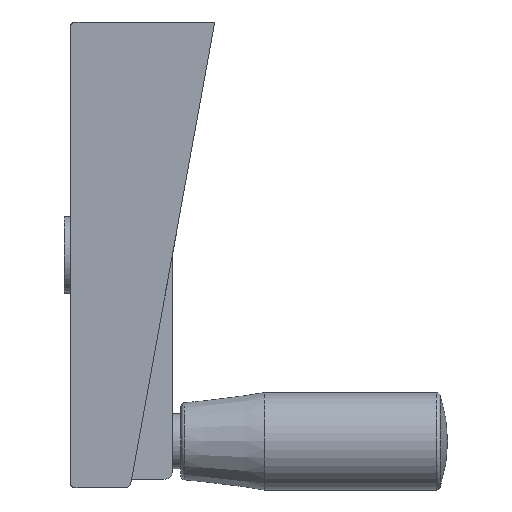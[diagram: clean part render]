
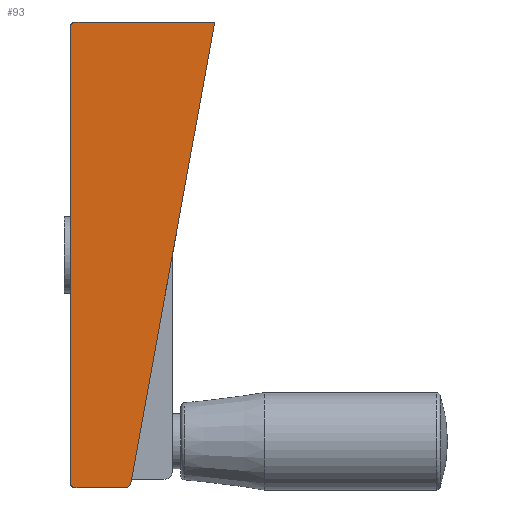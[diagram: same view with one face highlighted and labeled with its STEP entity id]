
A CAD part, top view. The second image highlights one B-rep face of the part: STEP entity #93.
In plain terms, the highlighted planar face has unit normal (0, -0.027, 1).
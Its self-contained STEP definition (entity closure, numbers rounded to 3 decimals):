
#93 = ADVANCED_FACE( '', ( #150 ), #151, .F. );
#150 = FACE_OUTER_BOUND( '', #218, .T. );
#151 = PLANE( '', #219 );
#218 = EDGE_LOOP( '', ( #357, #358, #359, #360, #361, #362, #363, #364, #365, #366, #367 ) );
#219 = AXIS2_PLACEMENT_3D( '', #368, #369, #370 );
#357 = ORIENTED_EDGE( '', *, *, #484, .F. );
#358 = ORIENTED_EDGE( '', *, *, #481, .F. );
#359 = ORIENTED_EDGE( '', *, *, #485, .F. );
#360 = ORIENTED_EDGE( '', *, *, #486, .F. );
#361 = ORIENTED_EDGE( '', *, *, #468, .F. );
#362 = ORIENTED_EDGE( '', *, *, #465, .F. );
#363 = ORIENTED_EDGE( '', *, *, #461, .F. );
#364 = ORIENTED_EDGE( '', *, *, #458, .F. );
#365 = ORIENTED_EDGE( '', *, *, #455, .F. );
#366 = ORIENTED_EDGE( '', *, *, #452, .F. );
#367 = ORIENTED_EDGE( '', *, *, #445, .F. );
#368 = CARTESIAN_POINT( '', ( 35., 0., 14. ) );
#369 = DIRECTION( '', ( 0., 0.027, -1. ) );
#370 = DIRECTION( '', ( 0., 1., 0.027 ) );
#445 = EDGE_CURVE( '', #509, #511, #512, .T. );
#452 = EDGE_CURVE( '', #511, #519, #523, .T. );
#455 = EDGE_CURVE( '', #519, #524, #528, .T. );
#458 = EDGE_CURVE( '', #524, #529, #533, .T. );
#461 = EDGE_CURVE( '', #529, #534, #538, .T. );
#465 = EDGE_CURVE( '', #534, #541, #545, .T. );
#468 = EDGE_CURVE( '', #541, #546, #550, .T. );
#481 = EDGE_CURVE( '', #571, #573, #574, .T. );
#484 = EDGE_CURVE( '', #573, #509, #578, .T. );
#485 = EDGE_CURVE( '', #579, #571, #580, .T. );
#486 = EDGE_CURVE( '', #546, #579, #581, .T. );
#509 = VERTEX_POINT( '', #611 );
#511 = VERTEX_POINT( '', #614 );
#512 = LINE( '', #615, #616 );
#519 = VERTEX_POINT( '', #625 );
#523 = LINE( '', #631, #632 );
#524 = VERTEX_POINT( '', #633 );
#528 = ELLIPSE( '', #638, 1.501, 1.5 );
#529 = VERTEX_POINT( '', #639 );
#533 = LINE( '', #645, #646 );
#534 = VERTEX_POINT( '', #647 );
#538 = ELLIPSE( '', #652, 1., 1. );
#541 = VERTEX_POINT( '', #655 );
#545 = LINE( '', #661, #662 );
#546 = VERTEX_POINT( '', #663 );
#550 = ELLIPSE( '', #668, 1., 1. );
#571 = VERTEX_POINT( '', #692 );
#573 = VERTEX_POINT( '', #695 );
#574 = LINE( '', #696, #697 );
#578 = LINE( '', #703, #704 );
#579 = VERTEX_POINT( '', #705 );
#580 = LINE( '', #706, #707 );
#581 = LINE( '', #708, #709 );
#611 = CARTESIAN_POINT( '', ( 14.366, -108., 11.055 ) );
#614 = CARTESIAN_POINT( '', ( 14.364, -108., 11.055 ) );
#615 = CARTESIAN_POINT( '', ( 14.364, -108., 11.055 ) );
#616 = VECTOR( '', #737, 1000. );
#625 = CARTESIAN_POINT( '', ( 14.224, -108.768, 11.034 ) );
#631 = CARTESIAN_POINT( '', ( 14.305, -108.321, 11.046 ) );
#632 = VECTOR( '', #748, 1000. );
#633 = CARTESIAN_POINT( '', ( 12.748, -110., 11. ) );
#638 = AXIS2_PLACEMENT_3D( '', #753, #754, #755 );
#639 = CARTESIAN_POINT( '', ( 1., -110., 11. ) );
#645 = CARTESIAN_POINT( '', ( 35., -110., 11. ) );
#646 = VECTOR( '', #758, 1000. );
#647 = CARTESIAN_POINT( '', ( 0., -109., 11.027 ) );
#652 = AXIS2_PLACEMENT_3D( '', #763, #764, #765 );
#655 = CARTESIAN_POINT( '', ( 0., -1., 13.973 ) );
#661 = CARTESIAN_POINT( '', ( 0., -0.618, 13.983 ) );
#662 = VECTOR( '', #771, 1000. );
#663 = CARTESIAN_POINT( '', ( 1., 0., 14. ) );
#668 = AXIS2_PLACEMENT_3D( '', #776, #777, #778 );
#692 = CARTESIAN_POINT( '', ( 24., -55., 12.5 ) );
#695 = CARTESIAN_POINT( '', ( 24., -55.006, 12.5 ) );
#696 = CARTESIAN_POINT( '', ( 24., -105.54, 11.122 ) );
#697 = VECTOR( '', #804, 1000. );
#703 = CARTESIAN_POINT( '', ( 34.032, 0.176, 14.005 ) );
#704 = VECTOR( '', #807, 1000. );
#705 = CARTESIAN_POINT( '', ( 34., 0., 14. ) );
#706 = CARTESIAN_POINT( '', ( 24.074, -54.591, 12.511 ) );
#707 = VECTOR( '', #808, 1000. );
#708 = CARTESIAN_POINT( '', ( 34., 0., 14. ) );
#709 = VECTOR( '', #809, 1000. );
#737 = DIRECTION( '', ( -1., 0., 0. ) );
#748 = DIRECTION( '', ( -0.179, -0.984, -0.027 ) );
#753 = CARTESIAN_POINT( '', ( 12.748, -108.5, 11.041 ) );
#754 = DIRECTION( '', ( 0., 0.027, -1. ) );
#755 = DIRECTION( '', ( 0., -1., -0.027 ) );
#758 = DIRECTION( '', ( -1., 0., 0. ) );
#763 = CARTESIAN_POINT( '', ( 1., -109., 11.027 ) );
#764 = DIRECTION( '', ( 0., 0.027, -1. ) );
#765 = DIRECTION( '', ( 0., -1., -0.027 ) );
#771 = DIRECTION( '', ( 0., 1., 0.027 ) );
#776 = CARTESIAN_POINT( '', ( 1., -1., 13.973 ) );
#777 = DIRECTION( '', ( 0., 0.027, -1. ) );
#778 = DIRECTION( '', ( 0., -1., -0.027 ) );
#804 = DIRECTION( '', ( 0., -1., -0.027 ) );
#807 = DIRECTION( '', ( -0.179, -0.984, -0.027 ) );
#808 = DIRECTION( '', ( -0.179, -0.984, -0.027 ) );
#809 = DIRECTION( '', ( 1., 0., 0. ) );
